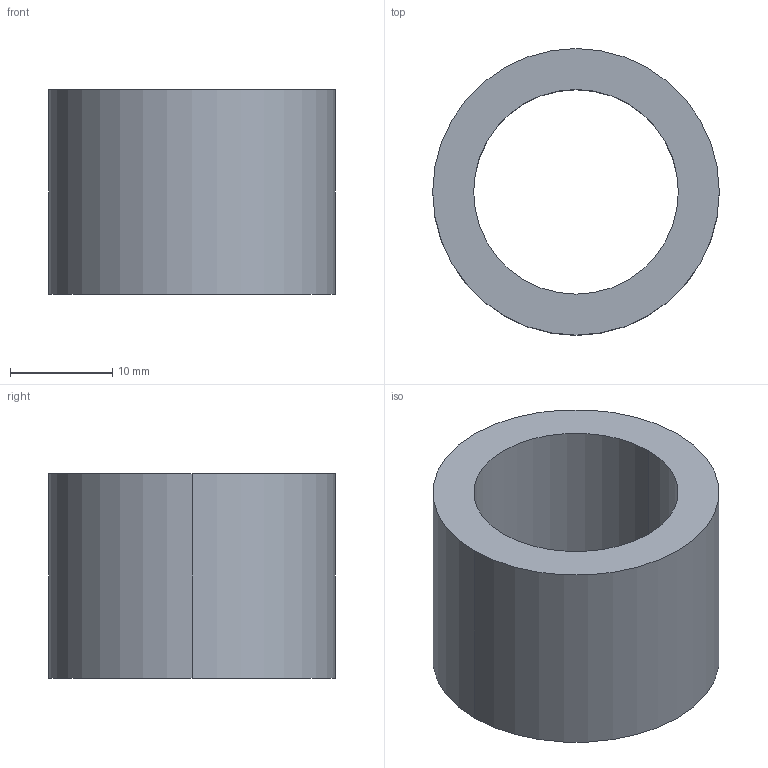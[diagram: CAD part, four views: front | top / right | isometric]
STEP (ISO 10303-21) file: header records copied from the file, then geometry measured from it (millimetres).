
FILE_DESCRIPTION(/* description */ (''),/* implementation_level */ '2;1');
FILE_NAME(/* name */ '3d_tgcz20-20_00382_r00.stp',/* time_stamp */ '2011-01-10T14:09:02+09:00',/* author */ ('MISUMI'),/* organization */ (''),/* preprocessor_version */ 'ST-DEVELOPER v11',/* originating_system */ 'UGS - NX 5.0',/* authorisation */ '');
FILE_SCHEMA (('CONFIG_CONTROL_DESIGN'));
Length unit declared in the file: millimetre
Products named in the file (1): 3d_tgcz20-20_00382_r00
Bounding box: 28 x 28 x 20 mm (x, y, z)
Volume: 6031.9 mm3; surface area: 3619.1 mm2
Topology: 1 solids, 1 shells, 6 faces, 12 edges, 8 vertices
Faces by surface type: cylinder 4, plane 2
Entity records: 254 total; most frequent: DIRECTION 34, CARTESIAN_POINT 27, ORIENTED_EDGE 24, AXIS2_PLACEMENT_3D 15, EDGE_CURVE 12, EDGE_LOOP 8, CIRCLE 8, VERTEX_POINT 8
